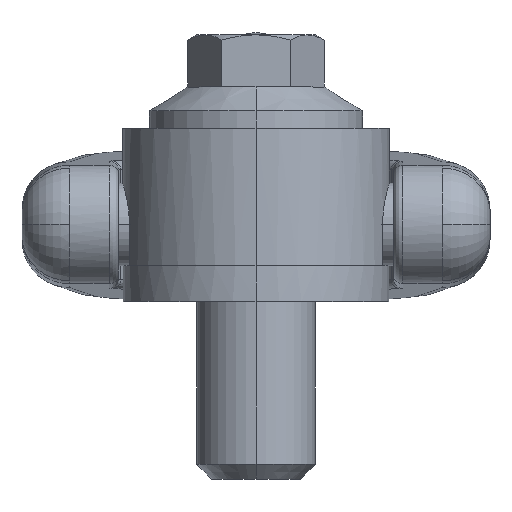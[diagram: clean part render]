
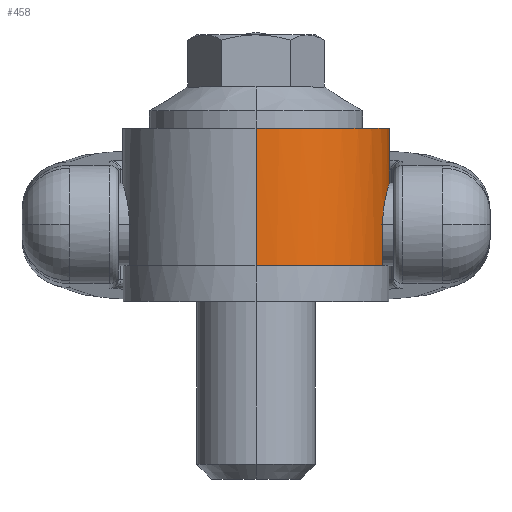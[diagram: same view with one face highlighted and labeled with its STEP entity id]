
A CAD part, top view. The second image highlights one B-rep face of the part: STEP entity #458.
In plain terms, the highlighted cylindrical face has radius 22.5 mm (diameter 45 mm), a partial arc.
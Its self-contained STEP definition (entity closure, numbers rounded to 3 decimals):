
#453 = EDGE_LOOP ( 'NONE', ( #488, #5938, #5915, #479, #476, #475, #470, #472 ) ) ;
#455 = VERTEX_POINT ( 'NONE', #2470 ) ;
#456 = VERTEX_POINT ( 'NONE', #2537 ) ;
#458 = ADVANCED_FACE ( 'NONE', ( #2536 ), #2535, .T. ) ;
#468 = EDGE_CURVE ( 'NONE', #469, #471, #2515, .T. ) ;
#469 = VERTEX_POINT ( 'NONE', #2509 ) ;
#470 = ORIENTED_EDGE ( 'NONE', *, *, #468, .F. ) ;
#471 = VERTEX_POINT ( 'NONE', #2508 ) ;
#472 = ORIENTED_EDGE ( 'NONE', *, *, #473, .F. ) ;
#473 = EDGE_CURVE ( 'NONE', #5959, #469, #2506, .T. ) ;
#474 = EDGE_CURVE ( 'NONE', #456, #471, #2502, .T. ) ;
#475 = ORIENTED_EDGE ( 'NONE', *, *, #474, .T. ) ;
#476 = ORIENTED_EDGE ( 'NONE', *, *, #478, .T. ) ;
#477 = EDGE_CURVE ( 'NONE', #455, #480, #2576, .T. ) ;
#478 = EDGE_CURVE ( 'NONE', #480, #456, #2571, .T. ) ;
#479 = ORIENTED_EDGE ( 'NONE', *, *, #477, .T. ) ;
#480 = VERTEX_POINT ( 'NONE', #2572 ) ;
#485 = EDGE_CURVE ( 'NONE', #455, #5914, #2598, .T. ) ;
#486 = EDGE_CURVE ( 'NONE', #487, #5959, #2593, .T. ) ;
#487 = VERTEX_POINT ( 'NONE', #2589 ) ;
#488 = ORIENTED_EDGE ( 'NONE', *, *, #486, .F. ) ;
#2470 = CARTESIAN_POINT ( 'NONE',  ( 21.383, 6., 7. ) ) ;
#2502 = LINE ( 'NONE', #2579, #2578 ) ;
#2503 = DIRECTION ( 'NONE',  ( 0., -1., 0. ) ) ;
#2504 = VECTOR ( 'NONE', #2503, 1000. ) ;
#2505 = CARTESIAN_POINT ( 'NONE',  ( 0., 45., -22.5 ) ) ;
#2506 = LINE ( 'NONE', #2505, #2504 ) ;
#2508 = CARTESIAN_POINT ( 'NONE',  ( 21.383, 6., -7. ) ) ;
#2509 = CARTESIAN_POINT ( 'NONE',  ( 0., 6., -22.5 ) ) ;
#2510 = DIRECTION ( 'NONE',  ( 0., 0., -1. ) ) ;
#2511 = DIRECTION ( 'NONE',  ( 0., -1., 0. ) ) ;
#2513 = CARTESIAN_POINT ( 'NONE',  ( 0., 6., 0. ) ) ;
#2514 = AXIS2_PLACEMENT_3D ( 'NONE', #2513, #2511, #2510 ) ;
#2515 = CIRCLE ( 'NONE', #2514, 22.5 ) ;
#2522 = DIRECTION ( 'NONE',  ( 0., 0., -1. ) ) ;
#2523 = DIRECTION ( 'NONE',  ( 0., -1., 0. ) ) ;
#2524 = CARTESIAN_POINT ( 'NONE',  ( 0., 45., 0. ) ) ;
#2534 = AXIS2_PLACEMENT_3D ( 'NONE', #2524, #2523, #2522 ) ;
#2535 = CYLINDRICAL_SURFACE ( 'NONE', #2534, 22.5 ) ;
#2536 = FACE_OUTER_BOUND ( 'NONE', #453, .T. ) ;
#2537 = CARTESIAN_POINT ( 'NONE',  ( 21.383, 13., -7. ) ) ;
#2538 = CARTESIAN_POINT ( 'NONE',  ( 22.391, 19.642, -2.258 ) ) ;
#2539 = CARTESIAN_POINT ( 'NONE',  ( 22.431, 19.775, -1.82 ) ) ;
#2540 = CARTESIAN_POINT ( 'NONE',  ( 22.486, 19.954, -0.92 ) ) ;
#2541 = CARTESIAN_POINT ( 'NONE',  ( 22.5, 20., -0.453 ) ) ;
#2542 = CARTESIAN_POINT ( 'NONE',  ( 22.5, 20., 0.467 ) ) ;
#2543 = CARTESIAN_POINT ( 'NONE',  ( 22.486, 19.954, 0.923 ) ) ;
#2544 = CARTESIAN_POINT ( 'NONE',  ( 22.444, 19.818, 1.601 ) ) ;
#2546 = CARTESIAN_POINT ( 'NONE',  ( 22.427, 19.761, 1.827 ) ) ;
#2547 = CARTESIAN_POINT ( 'NONE',  ( 22.387, 19.627, 2.267 ) ) ;
#2548 = CARTESIAN_POINT ( 'NONE',  ( 22.364, 19.549, 2.482 ) ) ;
#2550 = CARTESIAN_POINT ( 'NONE',  ( 22.288, 19.286, 3.113 ) ) ;
#2551 = CARTESIAN_POINT ( 'NONE',  ( 22.227, 19.071, 3.515 ) ) ;
#2552 = CARTESIAN_POINT ( 'NONE',  ( 22.093, 18.559, 4.279 ) ) ;
#2554 = CARTESIAN_POINT ( 'NONE',  ( 22.021, 18.27, 4.63 ) ) ;
#2555 = CARTESIAN_POINT ( 'NONE',  ( 21.913, 17.789, 5.11 ) ) ;
#2556 = CARTESIAN_POINT ( 'NONE',  ( 21.876, 17.621, 5.263 ) ) ;
#2558 = CARTESIAN_POINT ( 'NONE',  ( 21.804, 17.268, 5.553 ) ) ;
#2559 = CARTESIAN_POINT ( 'NONE',  ( 21.769, 17.082, 5.691 ) ) ;
#2561 = CARTESIAN_POINT ( 'NONE',  ( 21.667, 16.514, 6.072 ) ) ;
#2562 = CARTESIAN_POINT ( 'NONE',  ( 21.605, 16.113, 6.287 ) ) ;
#2563 = CARTESIAN_POINT ( 'NONE',  ( 21.526, 15.478, 6.551 ) ) ;
#2564 = CARTESIAN_POINT ( 'NONE',  ( 21.501, 15.26, 6.629 ) ) ;
#2565 = CARTESIAN_POINT ( 'NONE',  ( 21.459, 14.819, 6.764 ) ) ;
#2566 = CARTESIAN_POINT ( 'NONE',  ( 21.442, 14.596, 6.819 ) ) ;
#2567 = CARTESIAN_POINT ( 'NONE',  ( 21.399, 13.923, 6.954 ) ) ;
#2568 = CARTESIAN_POINT ( 'NONE',  ( 21.383, 13.465, 7. ) ) ;
#2569 = CARTESIAN_POINT ( 'NONE',  ( 21.383, 13., 7. ) ) ;
#2571 = B_SPLINE_CURVE_WITH_KNOTS ( 'NONE', 3,
 ( #2569, #2568, #2567, #2566, #2565, #2564, #2563, #2562, #2561, #2559, #2558, #2556, #2555, #2554, #2552, #2551, #2550, #2548, #2547, #2546, #2544, #2543, #2542, #2541, #2540, #2539, #2538, #2619, #2618, #2617, #2616, #2615, #2614, #2613, #2612, #2611, #2610, #2609, #2608, #2607, #2606, #2605, #2604, #2603, #2601, #2600 ),
 .UNSPECIFIED., .F., .F.,
 ( 4, 2, 2, 2, 2, 2, 2, 2, 2, 2, 2, 2, 2, 2, 2, 2, 2, 2, 2, 2, 2, 2, 4 ),
 ( 0., 0.001, 0.002, 0.003, 0.004, 0.005, 0.006, 0.007, 0.008, 0.009, 0.01, 0.011, 0.012, 0.014, 0.014, 0.015, 0.016, 0.017, 0.018, 0.019, 0.021, 0.021, 0.022 ),
 .UNSPECIFIED. ) ;
#2572 = CARTESIAN_POINT ( 'NONE',  ( 21.383, 13., 7. ) ) ;
#2573 = DIRECTION ( 'NONE',  ( 0., 1., 0. ) ) ;
#2574 = VECTOR ( 'NONE', #2573, 1000. ) ;
#2575 = CARTESIAN_POINT ( 'NONE',  ( 21.383, 45., 7. ) ) ;
#2576 = LINE ( 'NONE', #2575, #2574 ) ;
#2577 = DIRECTION ( 'NONE',  ( 0., -1., 0. ) ) ;
#2578 = VECTOR ( 'NONE', #2577, 1000. ) ;
#2579 = CARTESIAN_POINT ( 'NONE',  ( 21.383, 45., -7. ) ) ;
#2589 = CARTESIAN_POINT ( 'NONE',  ( 0., 29.2, 22.5 ) ) ;
#2590 = DIRECTION ( 'NONE',  ( 0., 0., 1. ) ) ;
#2591 = DIRECTION ( 'NONE',  ( 0., 1., 0. ) ) ;
#2592 = AXIS2_PLACEMENT_3D ( 'NONE', #2599, #2591, #2590 ) ;
#2593 = CIRCLE ( 'NONE', #2592, 22.5 ) ;
#2594 = DIRECTION ( 'NONE',  ( 0., 0., -1. ) ) ;
#2595 = DIRECTION ( 'NONE',  ( 0., -1., 0. ) ) ;
#2596 = CARTESIAN_POINT ( 'NONE',  ( 0., 6., 0. ) ) ;
#2597 = AXIS2_PLACEMENT_3D ( 'NONE', #2596, #2595, #2594 ) ;
#2598 = CIRCLE ( 'NONE', #2597, 22.5 ) ;
#2599 = CARTESIAN_POINT ( 'NONE',  ( 0., 29.2, 0. ) ) ;
#2600 = CARTESIAN_POINT ( 'NONE',  ( 21.383, 13., -7. ) ) ;
#2601 = CARTESIAN_POINT ( 'NONE',  ( 21.383, 13.233, -7. ) ) ;
#2603 = CARTESIAN_POINT ( 'NONE',  ( 21.387, 13.465, -6.988 ) ) ;
#2604 = CARTESIAN_POINT ( 'NONE',  ( 21.402, 13.926, -6.942 ) ) ;
#2605 = CARTESIAN_POINT ( 'NONE',  ( 21.413, 14.157, -6.908 ) ) ;
#2606 = CARTESIAN_POINT ( 'NONE',  ( 21.457, 14.835, -6.771 ) ) ;
#2607 = CARTESIAN_POINT ( 'NONE',  ( 21.5, 15.271, -6.637 ) ) ;
#2608 = CARTESIAN_POINT ( 'NONE',  ( 21.605, 16.114, -6.286 ) ) ;
#2609 = CARTESIAN_POINT ( 'NONE',  ( 21.669, 16.523, -6.066 ) ) ;
#2610 = CARTESIAN_POINT ( 'NONE',  ( 21.804, 17.279, -5.559 ) ) ;
#2611 = CARTESIAN_POINT ( 'NONE',  ( 21.876, 17.629, -5.271 ) ) ;
#2612 = CARTESIAN_POINT ( 'NONE',  ( 21.986, 18.113, -4.787 ) ) ;
#2613 = CARTESIAN_POINT ( 'NONE',  ( 22.022, 18.267, -4.616 ) ) ;
#2614 = CARTESIAN_POINT ( 'NONE',  ( 22.093, 18.557, -4.263 ) ) ;
#2615 = CARTESIAN_POINT ( 'NONE',  ( 22.128, 18.692, -4.08 ) ) ;
#2616 = CARTESIAN_POINT ( 'NONE',  ( 22.194, 18.945, -3.703 ) ) ;
#2617 = CARTESIAN_POINT ( 'NONE',  ( 22.226, 19.062, -3.508 ) ) ;
#2618 = CARTESIAN_POINT ( 'NONE',  ( 22.286, 19.278, -3.105 ) ) ;
#2619 = CARTESIAN_POINT ( 'NONE',  ( 22.314, 19.377, -2.896 ) ) ;
#4986 = DIRECTION ( 'NONE',  ( 0., -1., 0. ) ) ;
#4987 = VECTOR ( 'NONE', #4986, 1000. ) ;
#4988 = CARTESIAN_POINT ( 'NONE',  ( 0., 45., 22.5 ) ) ;
#4989 = LINE ( 'NONE', #4988, #4987 ) ;
#5000 = CARTESIAN_POINT ( 'NONE',  ( 0., 6., 22.5 ) ) ;
#5180 = CARTESIAN_POINT ( 'NONE',  ( 0., 29.2, -22.5 ) ) ;
#5914 = VERTEX_POINT ( 'NONE', #5000 ) ;
#5915 = ORIENTED_EDGE ( 'NONE', *, *, #485, .F. ) ;
#5916 = EDGE_CURVE ( 'NONE', #487, #5914, #4989, .T. ) ;
#5938 = ORIENTED_EDGE ( 'NONE', *, *, #5916, .T. ) ;
#5959 = VERTEX_POINT ( 'NONE', #5180 ) ;
